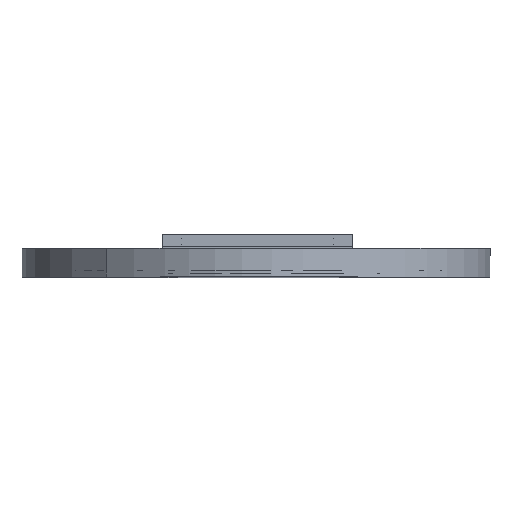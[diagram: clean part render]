
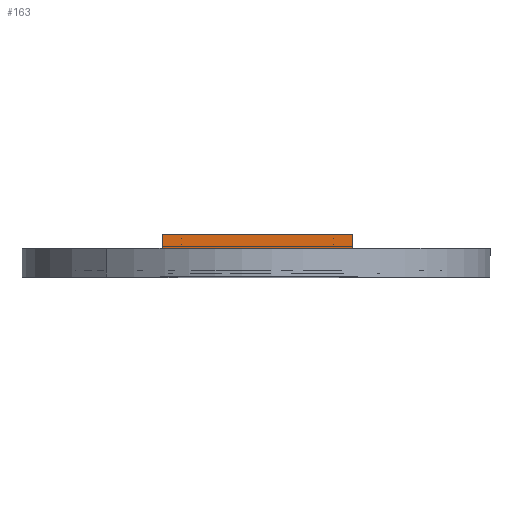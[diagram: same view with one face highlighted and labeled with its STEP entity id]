
A CAD part, top view. The second image highlights one B-rep face of the part: STEP entity #163.
In plain terms, the highlighted planar face has unit normal (0, 0, 1).
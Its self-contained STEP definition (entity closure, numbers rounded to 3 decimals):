
#28=FACE_BOUND('',#276,.T.);
#29=FACE_BOUND('',#277,.T.);
#70=(
BOUNDED_CURVE()
B_SPLINE_CURVE(2,(#3137,#3138,#3139,#3140,#3141),.UNSPECIFIED.,.F.,.F.)
B_SPLINE_CURVE_WITH_KNOTS((3,2,3),(0.,4.712,9.425),
 .UNSPECIFIED.)
CURVE()
GEOMETRIC_REPRESENTATION_ITEM()
RATIONAL_B_SPLINE_CURVE((1.,0.707,1.,0.707,1.))
REPRESENTATION_ITEM('')
);
#73=(
BOUNDED_CURVE()
B_SPLINE_CURVE(2,(#3149,#3150,#3151,#3152,#3153),.UNSPECIFIED.,.F.,.F.)
B_SPLINE_CURVE_WITH_KNOTS((3,2,3),(0.,4.712,9.425),
 .UNSPECIFIED.)
CURVE()
GEOMETRIC_REPRESENTATION_ITEM()
RATIONAL_B_SPLINE_CURVE((1.,0.707,1.,0.707,1.))
REPRESENTATION_ITEM('')
);
#86=(
BOUNDED_CURVE()
B_SPLINE_CURVE(2,(#3199,#3200,#3201,#3202,#3203),.UNSPECIFIED.,.F.,.F.)
B_SPLINE_CURVE_WITH_KNOTS((3,2,3),(9.425,14.137,18.85),
 .UNSPECIFIED.)
CURVE()
GEOMETRIC_REPRESENTATION_ITEM()
RATIONAL_B_SPLINE_CURVE((1.,0.707,1.,0.707,1.))
REPRESENTATION_ITEM('')
);
#89=(
BOUNDED_CURVE()
B_SPLINE_CURVE(2,(#3211,#3212,#3213,#3214,#3215),.UNSPECIFIED.,.F.,.F.)
B_SPLINE_CURVE_WITH_KNOTS((3,2,3),(9.425,14.137,18.85),
 .UNSPECIFIED.)
CURVE()
GEOMETRIC_REPRESENTATION_ITEM()
RATIONAL_B_SPLINE_CURVE((1.,0.707,1.,0.707,1.))
REPRESENTATION_ITEM('')
);
#163=ADVANCED_FACE('',(#214,#28,#29),#846,.T.);
#214=FACE_OUTER_BOUND('',#275,.T.);
#275=EDGE_LOOP('',(#424,#425,#426,#427));
#276=EDGE_LOOP('',(#428,#429));
#277=EDGE_LOOP('',(#430,#431));
#424=ORIENTED_EDGE('',*,*,#614,.T.);
#425=ORIENTED_EDGE('',*,*,#615,.T.);
#426=ORIENTED_EDGE('',*,*,#616,.F.);
#427=ORIENTED_EDGE('',*,*,#617,.F.);
#428=ORIENTED_EDGE('',*,*,#632,.T.);
#429=ORIENTED_EDGE('',*,*,#648,.T.);
#430=ORIENTED_EDGE('',*,*,#635,.T.);
#431=ORIENTED_EDGE('',*,*,#651,.T.);
#614=EDGE_CURVE('',#788,#789,#708,.T.);
#615=EDGE_CURVE('',#789,#790,#709,.T.);
#616=EDGE_CURVE('',#791,#790,#710,.T.);
#617=EDGE_CURVE('',#788,#791,#711,.T.);
#632=EDGE_CURVE('',#800,#810,#70,.T.);
#635=EDGE_CURVE('',#802,#812,#73,.T.);
#648=EDGE_CURVE('',#810,#800,#86,.T.);
#651=EDGE_CURVE('',#812,#802,#89,.T.);
#708=B_SPLINE_CURVE_WITH_KNOTS('',1,(#3101,#3102),.UNSPECIFIED.,.F.,.F.,
(2,2),(0.,15.),.UNSPECIFIED.);
#709=B_SPLINE_CURVE_WITH_KNOTS('',1,(#3103,#3104),.UNSPECIFIED.,.F.,.F.,
(2,2),(0.,200.),.UNSPECIFIED.);
#710=B_SPLINE_CURVE_WITH_KNOTS('',1,(#3105,#3106),.UNSPECIFIED.,.F.,.F.,
(2,2),(0.,15.),.UNSPECIFIED.);
#711=B_SPLINE_CURVE_WITH_KNOTS('',1,(#3107,#3108),.UNSPECIFIED.,.F.,.F.,
(2,2),(0.,200.),.UNSPECIFIED.);
#788=VERTEX_POINT('',#3069);
#789=VERTEX_POINT('',#3070);
#790=VERTEX_POINT('',#3071);
#791=VERTEX_POINT('',#3072);
#800=VERTEX_POINT('',#3081);
#802=VERTEX_POINT('',#3083);
#810=VERTEX_POINT('',#3091);
#812=VERTEX_POINT('',#3093);
#846=PLANE('',#897);
#897=AXIS2_PLACEMENT_3D('',#2961,#924,$);
#924=DIRECTION('',(0.,0.,1.));
#2961=CARTESIAN_POINT('',(575.216,25.764,209.604));
#3069=CARTESIAN_POINT('',(575.216,25.764,209.604));
#3070=CARTESIAN_POINT('',(575.216,40.764,209.604));
#3071=CARTESIAN_POINT('',(375.216,40.764,209.604));
#3072=CARTESIAN_POINT('',(375.216,25.764,209.604));
#3081=CARTESIAN_POINT('',(395.216,36.264,209.604));
#3083=CARTESIAN_POINT('',(555.216,36.264,209.604));
#3091=CARTESIAN_POINT('',(395.216,30.264,209.604));
#3093=CARTESIAN_POINT('',(555.216,30.264,209.604));
#3101=CARTESIAN_POINT('',(575.216,25.764,209.604));
#3102=CARTESIAN_POINT('',(575.216,40.764,209.604));
#3103=CARTESIAN_POINT('',(575.216,40.764,209.604));
#3104=CARTESIAN_POINT('',(375.216,40.764,209.604));
#3105=CARTESIAN_POINT('',(375.216,25.764,209.604));
#3106=CARTESIAN_POINT('',(375.216,40.764,209.604));
#3107=CARTESIAN_POINT('',(575.216,25.764,209.604));
#3108=CARTESIAN_POINT('',(375.216,25.764,209.604));
#3137=CARTESIAN_POINT('',(395.216,36.264,209.604));
#3138=CARTESIAN_POINT('',(398.216,36.264,209.604));
#3139=CARTESIAN_POINT('',(398.216,33.264,209.604));
#3140=CARTESIAN_POINT('',(398.216,30.264,209.604));
#3141=CARTESIAN_POINT('',(395.216,30.264,209.604));
#3149=CARTESIAN_POINT('',(555.216,36.264,209.604));
#3150=CARTESIAN_POINT('',(558.216,36.264,209.604));
#3151=CARTESIAN_POINT('',(558.216,33.264,209.604));
#3152=CARTESIAN_POINT('',(558.216,30.264,209.604));
#3153=CARTESIAN_POINT('',(555.216,30.264,209.604));
#3199=CARTESIAN_POINT('',(395.216,30.264,209.604));
#3200=CARTESIAN_POINT('',(392.216,30.264,209.604));
#3201=CARTESIAN_POINT('',(392.216,33.264,209.604));
#3202=CARTESIAN_POINT('',(392.216,36.264,209.604));
#3203=CARTESIAN_POINT('',(395.216,36.264,209.604));
#3211=CARTESIAN_POINT('',(555.216,30.264,209.604));
#3212=CARTESIAN_POINT('',(552.216,30.264,209.604));
#3213=CARTESIAN_POINT('',(552.216,33.264,209.604));
#3214=CARTESIAN_POINT('',(552.216,36.264,209.604));
#3215=CARTESIAN_POINT('',(555.216,36.264,209.604));
